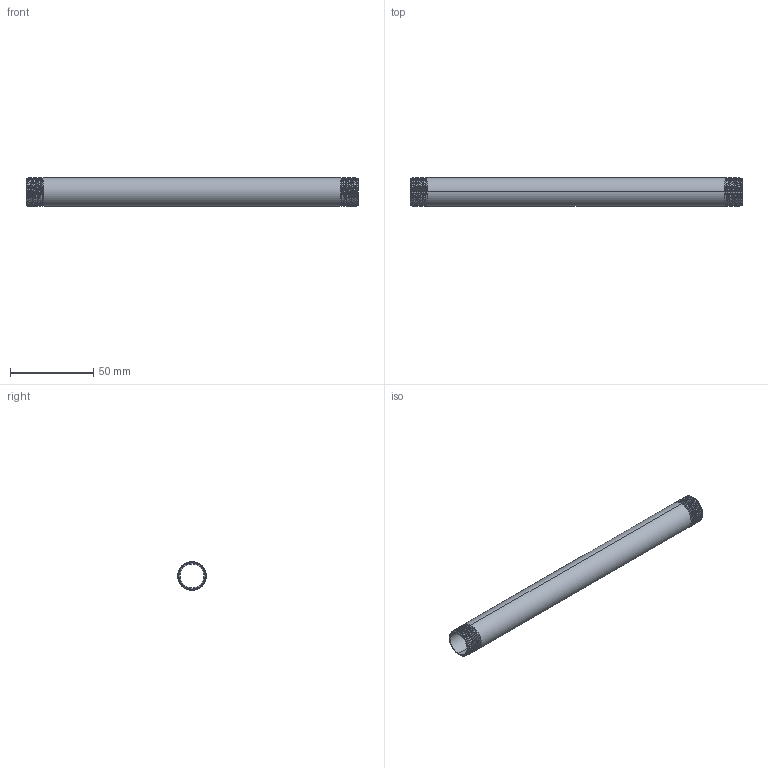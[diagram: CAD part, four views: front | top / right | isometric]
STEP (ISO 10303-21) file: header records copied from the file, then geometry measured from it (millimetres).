
FILE_DESCRIPTION (( 'STEP AP203' ), '1' );
FILE_NAME ('3D_R210_3-8x200_17185620.STEP', '2024-08-16T10:54:31', ( '' ), ( '' ), 'SwSTEP 2.0', 'SolidWorks 2024', '' );
FILE_SCHEMA (( 'CONFIG_CONTROL_DESIGN' ));
Length unit declared in the file: millimetre
Products named in the file (1): 3D_R210_3-8x200_17185620
Bounding box: 200 x 17.2 x 17.2 mm (x, y, z)
Volume: 14444.6 mm3; surface area: 20339.1 mm2
Topology: 1 solids, 1 shells, 60 faces, 166 edges, 108 vertices
Faces by surface type: cone 46, bspline 6, cylinder 4, plane 4
Entity records: 8905 total; most frequent: CARTESIAN_POINT 7503, ORIENTED_EDGE 332, DIRECTION 194, EDGE_CURVE 166, VERTEX_POINT 108, B_SPLINE_CURVE_WITH_KNOTS 88, AXIS2_PLACEMENT_3D 69, EDGE_LOOP 62
